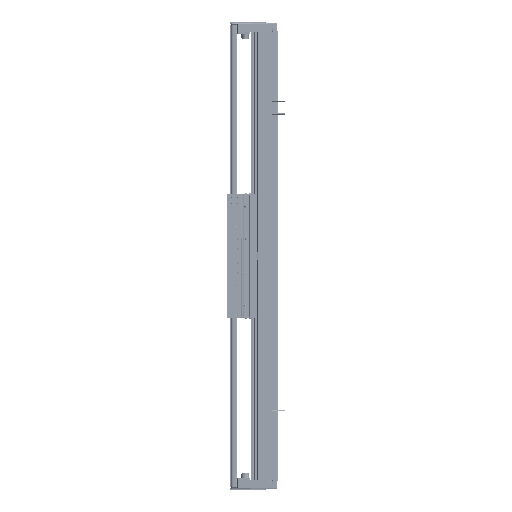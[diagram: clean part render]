
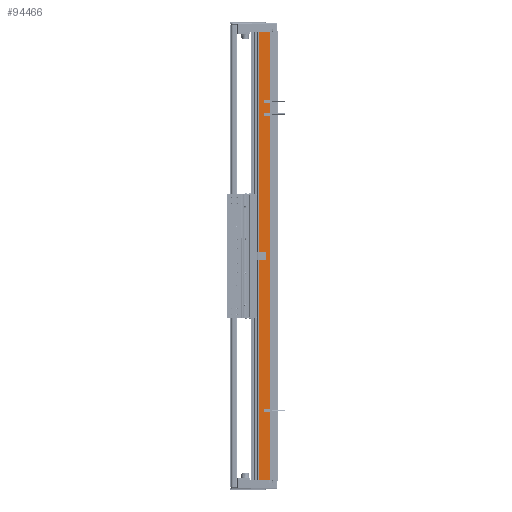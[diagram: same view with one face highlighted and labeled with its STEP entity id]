
A CAD part, left-side view. The second image highlights one B-rep face of the part: STEP entity #94466.
In plain terms, the highlighted planar face has unit normal (-1, 0, 0).
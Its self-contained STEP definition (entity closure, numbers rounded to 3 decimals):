
#3734 = CARTESIAN_POINT ( 'NONE',  ( -97.5, 36.95, 450. ) ) ;
#3972 = DIRECTION ( 'NONE',  ( 0., 0., -1. ) ) ;
#6741 = CARTESIAN_POINT ( 'NONE',  ( -97.5, 36.95, -450. ) ) ;
#6871 = ORIENTED_EDGE ( 'NONE', *, *, #93383, .T. ) ;
#8184 = DIRECTION ( 'NONE',  ( 0., 0., -1. ) ) ;
#8488 = CARTESIAN_POINT ( 'NONE',  ( -97.5, 14.45, -450. ) ) ;
#10386 = EDGE_LOOP ( 'NONE', ( #59291, #109784, #29106, #6871 ) ) ;
#16107 = CARTESIAN_POINT ( 'NONE',  ( -97.5, 36.95, -450. ) ) ;
#21964 = VECTOR ( 'NONE', #3972, 1000. ) ;
#28090 = LINE ( 'NONE', #16107, #95727 ) ;
#29106 = ORIENTED_EDGE ( 'NONE', *, *, #85007, .F. ) ;
#49960 = VERTEX_POINT ( 'NONE', #8488 ) ;
#55102 = FACE_OUTER_BOUND ( 'NONE', #10386, .T. ) ;
#59291 = ORIENTED_EDGE ( 'NONE', *, *, #120661, .T. ) ;
#61829 = CARTESIAN_POINT ( 'NONE',  ( -97.5, 36.95, 450. ) ) ;
#64298 = PLANE ( 'NONE',  #132333 ) ;
#67668 = VECTOR ( 'NONE', #122996, 1000. ) ;
#68546 = CARTESIAN_POINT ( 'NONE',  ( -97.5, 36.95, 450. ) ) ;
#68874 = LINE ( 'NONE', #111224, #21964 ) ;
#72425 = LINE ( 'NONE', #61829, #125391 ) ;
#73583 = VERTEX_POINT ( 'NONE', #108056 ) ;
#85007 = EDGE_CURVE ( 'NONE', #106620, #73583, #124402, .T. ) ;
#93383 = EDGE_CURVE ( 'NONE', #106620, #102078, #72425, .T. ) ;
#94466 = ADVANCED_FACE ( 'NONE', ( #55102 ), #64298, .F. ) ;
#95727 = VECTOR ( 'NONE', #136081, 1000. ) ;
#102078 = VERTEX_POINT ( 'NONE', #6741 ) ;
#106620 = VERTEX_POINT ( 'NONE', #68546 ) ;
#108056 = CARTESIAN_POINT ( 'NONE',  ( -97.5, 14.45, 450. ) ) ;
#109784 = ORIENTED_EDGE ( 'NONE', *, *, #111062, .F. ) ;
#111062 = EDGE_CURVE ( 'NONE', #73583, #49960, #68874, .T. ) ;
#111224 = CARTESIAN_POINT ( 'NONE',  ( -97.5, 14.45, 450. ) ) ;
#120661 = EDGE_CURVE ( 'NONE', #102078, #49960, #28090, .T. ) ;
#122996 = DIRECTION ( 'NONE',  ( 0., -1., 0. ) ) ;
#124402 = LINE ( 'NONE', #3734, #67668 ) ;
#125391 = VECTOR ( 'NONE', #8184, 1000. ) ;
#127852 = DIRECTION ( 'NONE',  ( 0., 1., 0. ) ) ;
#129203 = CARTESIAN_POINT ( 'NONE',  ( -97.5, 36.95, 450. ) ) ;
#129908 = DIRECTION ( 'NONE',  ( 1., 0., 0. ) ) ;
#132333 = AXIS2_PLACEMENT_3D ( 'NONE', #129203, #129908, #127852 ) ;
#136081 = DIRECTION ( 'NONE',  ( 0., -1., 0. ) ) ;
